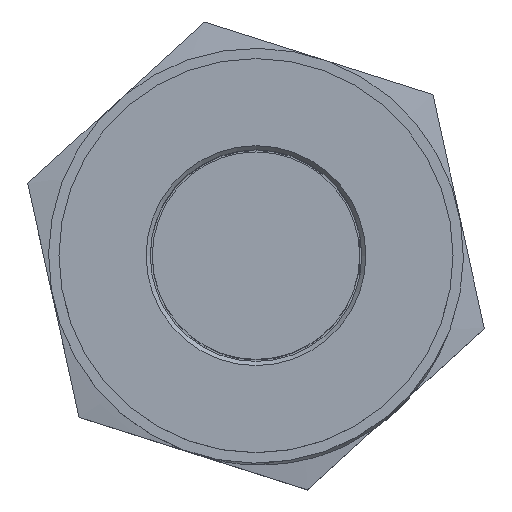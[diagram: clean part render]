
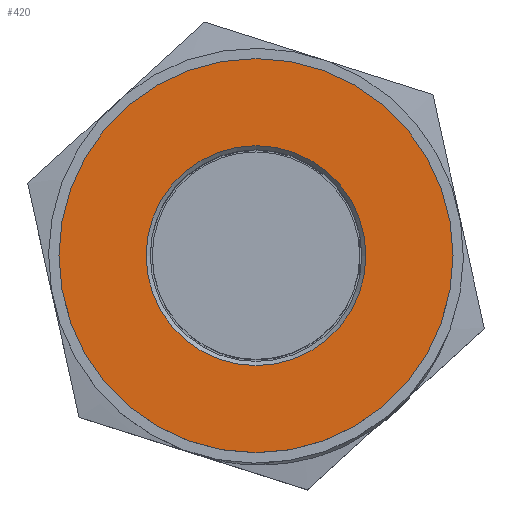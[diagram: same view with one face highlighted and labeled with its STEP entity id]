
A CAD part, top view. The second image highlights one B-rep face of the part: STEP entity #420.
In plain terms, the highlighted planar face has unit normal (0, 0, 1).
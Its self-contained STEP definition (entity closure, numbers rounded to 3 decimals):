
#420 = ADVANCED_FACE( '', ( #769, #770 ), #771, .F. );
#769 = FACE_BOUND( '', #5586, .T. );
#770 = FACE_OUTER_BOUND( '', #5587, .T. );
#771 = PLANE( '', #5588 );
#5586 = EDGE_LOOP( '', ( #6443 ) );
#5587 = EDGE_LOOP( '', ( #6444 ) );
#5588 = AXIS2_PLACEMENT_3D( '', #6445, #6446, #6447 );
#6443 = ORIENTED_EDGE( '', *, *, #6864, .T. );
#6444 = ORIENTED_EDGE( '', *, *, #6794, .F. );
#6445 = CARTESIAN_POINT( '', ( 0., 0., 10.65 ) );
#6446 = DIRECTION( '', ( 0., 0., -1. ) );
#6447 = DIRECTION( '', ( -1., 0., 0. ) );
#6794 = EDGE_CURVE( '', #7091, #7091, #7092, .T. );
#6864 = EDGE_CURVE( '', #7194, #7194, #7195, .T. );
#7091 = VERTEX_POINT( '', #9893 );
#7092 = CIRCLE( '', #9894, 4.75 );
#7194 = VERTEX_POINT( '', #12701 );
#7195 = CIRCLE( '', #12702, 2.65 );
#9893 = CARTESIAN_POINT( '', ( 0., -4.75, 10.65 ) );
#9894 = AXIS2_PLACEMENT_3D( '', #13153, #13154, #13155 );
#12701 = CARTESIAN_POINT( '', ( -2.65, 0., 10.65 ) );
#12702 = AXIS2_PLACEMENT_3D( '', #13210, #13211, #13212 );
#13153 = CARTESIAN_POINT( '', ( 0., 0., 10.65 ) );
#13154 = DIRECTION( '', ( 0., 0., -1. ) );
#13155 = DIRECTION( '', ( 0., -1., 0. ) );
#13210 = CARTESIAN_POINT( '', ( 0., 0., 10.65 ) );
#13211 = DIRECTION( '', ( 0., 0., -1. ) );
#13212 = DIRECTION( '', ( -1., 0., 0. ) );
